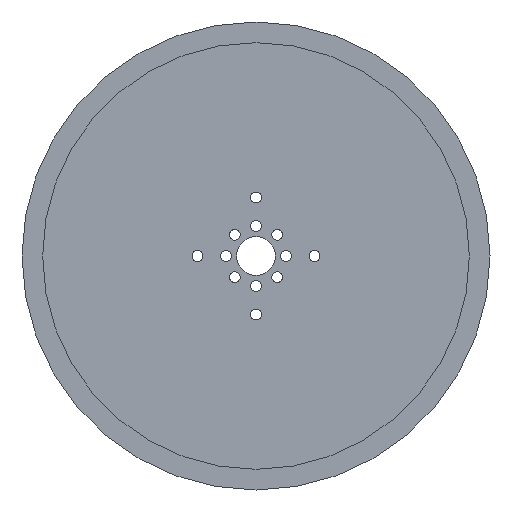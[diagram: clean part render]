
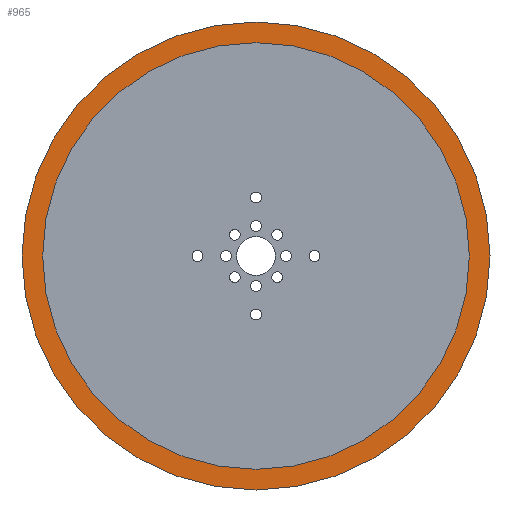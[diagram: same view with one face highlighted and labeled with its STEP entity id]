
A CAD part, front view. The second image highlights one B-rep face of the part: STEP entity #965.
In plain terms, the highlighted planar face has unit normal (0, -1, 0) as drawn and (1, 0, 0) by its records, which use the part's own axes.
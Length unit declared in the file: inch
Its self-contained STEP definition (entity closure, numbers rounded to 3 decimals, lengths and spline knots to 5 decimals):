
#10 = VERTEX_POINT ( 'NONE', #1034 ) ;
#14 = VERTEX_POINT ( 'NONE', #244 ) ;
#59 = DIRECTION ( 'NONE',  ( -1., 0., 0. ) ) ;
#97 = EDGE_LOOP ( 'NONE', ( #176, #955 ) ) ;
#99 = VERTEX_POINT ( 'NONE', #435 ) ;
#108 = DIRECTION ( 'NONE',  ( -1., 0., 0. ) ) ;
#176 = ORIENTED_EDGE ( 'NONE', *, *, #554, .T. ) ;
#191 = CARTESIAN_POINT ( 'NONE',  ( 0.177, 0., 0. ) ) ;
#237 = DIRECTION ( 'NONE',  ( 0., 0., -1. ) ) ;
#244 = CARTESIAN_POINT ( 'NONE',  ( 0.177, 0., -3. ) ) ;
#297 = EDGE_CURVE ( 'NONE', #10, #1539, #1274, .T. ) ;
#327 = AXIS2_PLACEMENT_3D ( 'NONE', #611, #738, #360 ) ;
#360 = DIRECTION ( 'NONE',  ( 0., 0., 1. ) ) ;
#403 = AXIS2_PLACEMENT_3D ( 'NONE', #1553, #1542, #237 ) ;
#435 = CARTESIAN_POINT ( 'NONE',  ( 0.177, 0., 3. ) ) ;
#554 = EDGE_CURVE ( 'NONE', #1539, #10, #1098, .T. ) ;
#611 = CARTESIAN_POINT ( 'NONE',  ( 0.177, 0., 0. ) ) ;
#628 = DIRECTION ( 'NONE',  ( 0., 0., 1. ) ) ;
#738 = DIRECTION ( 'NONE',  ( -1., 0., 0. ) ) ;
#834 = DIRECTION ( 'NONE',  ( 0., 0., 1. ) ) ;
#839 = EDGE_LOOP ( 'NONE', ( #1088, #1649 ) ) ;
#855 = CIRCLE ( 'NONE', #1488, 3. ) ;
#892 = FACE_OUTER_BOUND ( 'NONE', #839, .T. ) ;
#922 = AXIS2_PLACEMENT_3D ( 'NONE', #1486, #1479, #948 ) ;
#948 = DIRECTION ( 'NONE',  ( 0., 0., 1. ) ) ;
#955 = ORIENTED_EDGE ( 'NONE', *, *, #297, .T. ) ;
#965 = ADVANCED_FACE ( 'NONE', ( #1289, #892 ), #1428, .T. ) ;
#1016 = AXIS2_PLACEMENT_3D ( 'NONE', #1683, #108, #628 ) ;
#1034 = CARTESIAN_POINT ( 'NONE',  ( 0.177, 0., -2.735 ) ) ;
#1088 = ORIENTED_EDGE ( 'NONE', *, *, #1464, .F. ) ;
#1098 = CIRCLE ( 'NONE', #327, 2.735 ) ;
#1119 = EDGE_CURVE ( 'NONE', #14, #99, #1678, .T. ) ;
#1274 = CIRCLE ( 'NONE', #922, 2.735 ) ;
#1289 = FACE_BOUND ( 'NONE', #97, .T. ) ;
#1428 = PLANE ( 'NONE',  #403 ) ;
#1464 = EDGE_CURVE ( 'NONE', #99, #14, #855, .T. ) ;
#1479 = DIRECTION ( 'NONE',  ( -1., 0., 0. ) ) ;
#1486 = CARTESIAN_POINT ( 'NONE',  ( 0.177, 0., 0. ) ) ;
#1488 = AXIS2_PLACEMENT_3D ( 'NONE', #191, #59, #834 ) ;
#1539 = VERTEX_POINT ( 'NONE', #1592 ) ;
#1542 = DIRECTION ( 'NONE',  ( 1., 0., 0. ) ) ;
#1553 = CARTESIAN_POINT ( 'NONE',  ( 0.177, 0., 0. ) ) ;
#1592 = CARTESIAN_POINT ( 'NONE',  ( 0.177, 0., 2.735 ) ) ;
#1649 = ORIENTED_EDGE ( 'NONE', *, *, #1119, .F. ) ;
#1678 = CIRCLE ( 'NONE', #1016, 3. ) ;
#1683 = CARTESIAN_POINT ( 'NONE',  ( 0.177, 0., 0. ) ) ;
